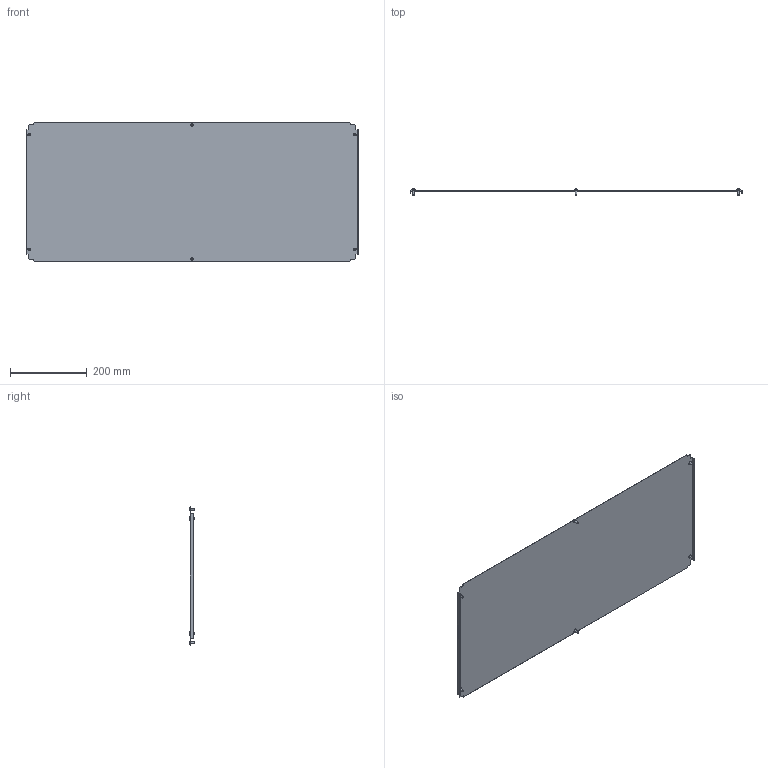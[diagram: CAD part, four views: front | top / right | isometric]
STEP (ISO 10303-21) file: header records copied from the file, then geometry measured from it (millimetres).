
FILE_DESCRIPTION (( 'STEP AP203' ), '1' );
FILE_NAME ('R5N1BP105.STEP', '2025-02-21T13:55:59', ( '' ), ( '' ), 'SwSTEP 2.0', 'SolidWorks 2022', '' );
FILE_SCHEMA (( 'CONFIG_CONTROL_DESIGN' ));
Length unit declared in the file: millimetre
Products named in the file (3): M5x12 DIN 7500 C Torx Zinc_stright; R5N1BP105; RB.1923.00.00.0_-25
Assembly tree (7 placements, depth 2):
  R5N1BP105
    RB.1923.00.00.0_-25
    M5x12 DIN 7500 C Torx Zinc_stright  x6
Bounding box: 868 x 15.56 x 362 mm (x, y, z)
Volume: 479686 mm3; surface area: 642669.4 mm2
Topology: 7 solids, 7 shells, 166 faces, 384 edges, 238 vertices
Faces by surface type: plane 106, cylinder 24, torus 12, cone 12, sphere 6, bspline 6
Full cylindrical faces by diameter (mm): 5 x6, 9.5 x6
Entity records: 3297 total; most frequent: CARTESIAN_POINT 674, ORIENTED_EDGE 448, DIRECTION 444, EDGE_CURVE 224, VECTOR 180, LINE 180, VERTEX_POINT 150, AXIS2_PLACEMENT_3D 132
